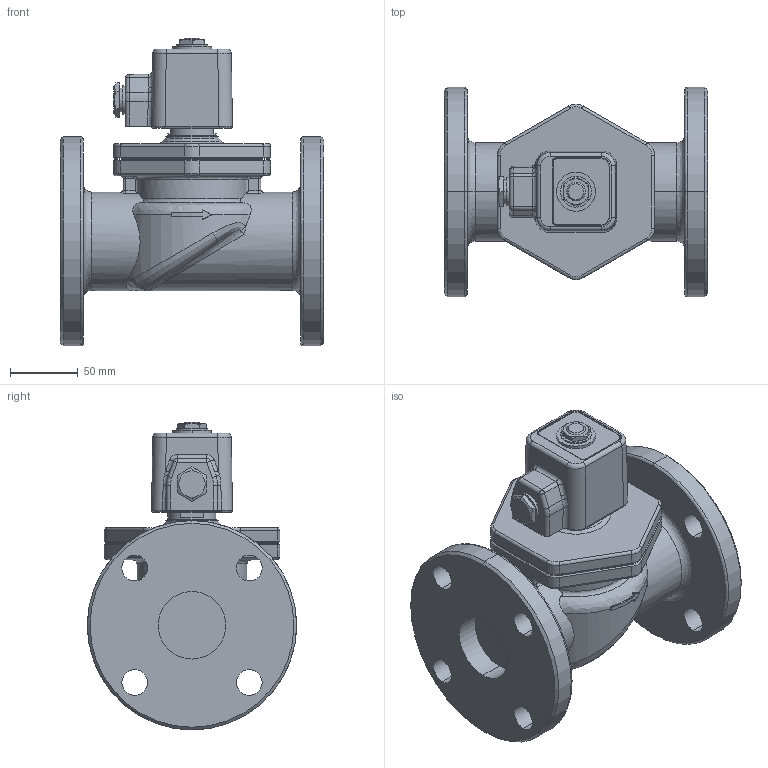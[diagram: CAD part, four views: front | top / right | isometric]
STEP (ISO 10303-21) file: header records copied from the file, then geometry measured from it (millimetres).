
FILE_DESCRIPTION( (''), '2;1');
FILE_NAME ('PC1027.7416.DP-100F　50A_30358.stp','2025-07-28T18:20:53',(''),(''),'spGate 19.8.4 (****-****-****-****)','','');
FILE_SCHEMA (('AUTOMOTIVE_DESIGN'));
Length unit declared in the file: millimetre
Products named in the file (6): Assembly; DP-100F 弁箱 50A; ふた 50A; パイプP 32-65A; コイルＰ 32-65A; プレートP 32-65A
Assembly tree (5 placements, depth 2):
  Assembly
    DP-100F 弁箱 50A
    ふた 50A
    パイプP 32-65A
    コイルＰ 32-65A
    プレートP 32-65A
Bounding box: 195 x 155 x 228 mm (x, y, z)
Volume: 1963594.6 mm3; surface area: 216481.7 mm2
Topology: 5 solids, 5 shells, 446 faces, 1049 edges, 611 vertices
Faces by surface type: cylinder 162, bspline 148, plane 122, sphere 14
Entity records: 24752 total; most frequent: CARTESIAN_POINT 7006, ORIENTED_EDGE 2048, DIRECTION 1755, COLOUR_RGB 1475, PRESENTATION_STYLE_ASSIGNMENT 1475, STYLED_ITEM 1475, EDGE_CURVE 1024, DRAUGHTING_PRE_DEFINED_CURVE_FONT 1024
